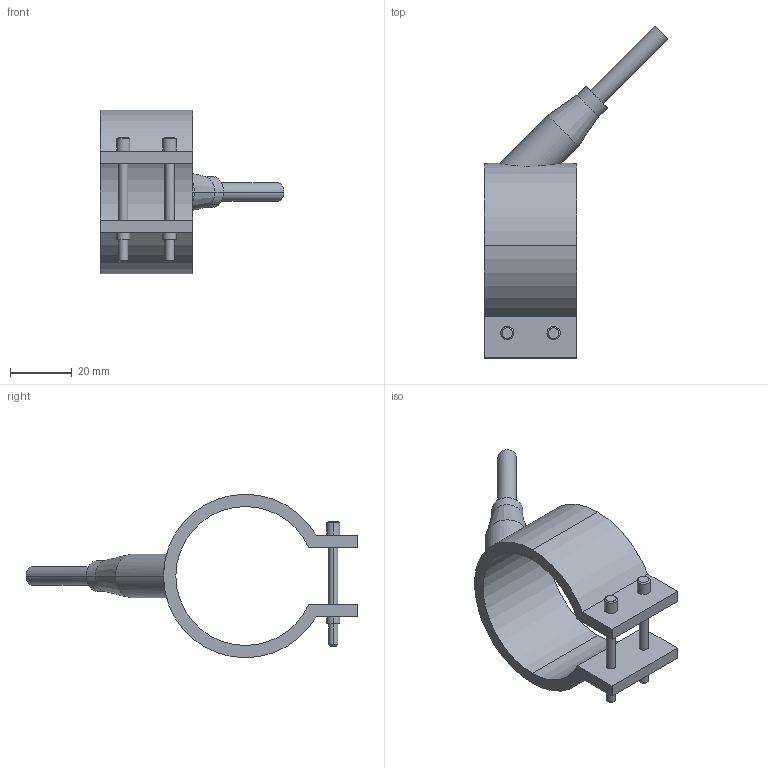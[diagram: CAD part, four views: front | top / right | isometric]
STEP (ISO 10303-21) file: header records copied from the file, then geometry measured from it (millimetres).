
FILE_DESCRIPTION(('CATIA V5 STEP Exchange'),'2;1');
FILE_NAME('C:\Users\Utente\Desktop\IO LAVORO\3D X SITO CF\X SITO\PLASTICA\RF1\29045030.stp','2021-03-27T09:36:11+00:00',('none'),('none'),'CATIA Version 5 Release 20 GA (IN-10)','CATIA V5 STEP AP203','none');
FILE_SCHEMA(('CONFIG_CONTROL_DESIGN'));
Length unit declared in the file: millimetre
Products named in the file (1): 29045030
Bounding box: 59.55 x 107.55 x 53 mm (x, y, z)
Volume: 24568.3 mm3; surface area: 13417.2 mm2
Topology: 1 solids, 1 shells, 54 faces, 122 edges, 78 vertices
Faces by surface type: cylinder 28, plane 16, cone 10
Entity records: 1720 total; most frequent: CARTESIAN_POINT 491, ORIENTED_EDGE 244, DIRECTION 214, EDGE_CURVE 122, AXIS2_PLACEMENT_3D 107, VERTEX_POINT 78, EDGE_LOOP 66, VECTOR 56
